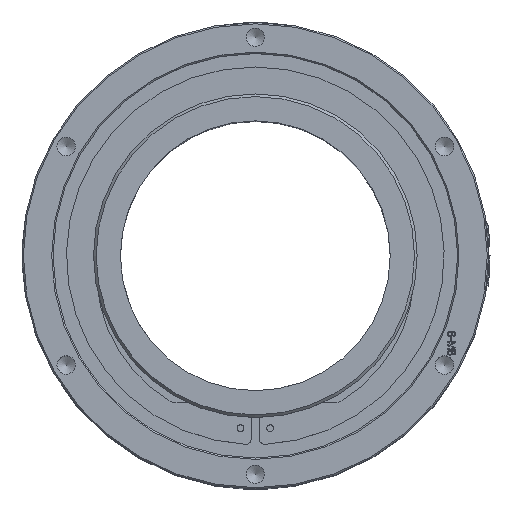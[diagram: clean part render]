
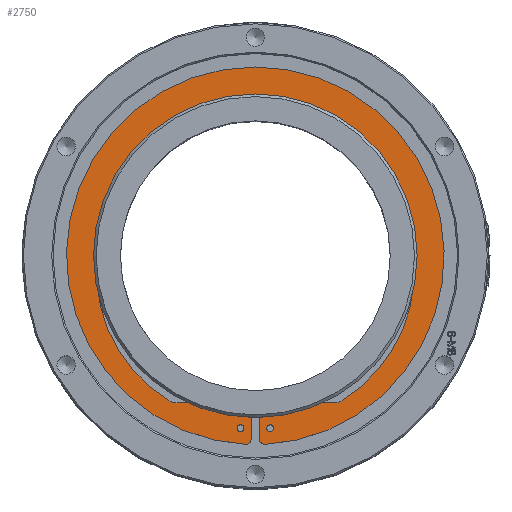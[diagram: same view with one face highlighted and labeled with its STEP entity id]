
A CAD part, top view. The second image highlights one B-rep face of the part: STEP entity #2750.
In plain terms, the highlighted planar face has unit normal (0, 0, 1).
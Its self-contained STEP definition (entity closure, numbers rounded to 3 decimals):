
#517=FACE_BOUND('',#7560,.T.);
#518=FACE_BOUND('',#7561,.T.);
#519=FACE_BOUND('',#7562,.T.);
#771=CIRCLE('',#25718,58.);
#772=CIRCLE('',#25719,58.);
#773=CIRCLE('',#25720,58.);
#778=CIRCLE('',#25741,1.25);
#779=CIRCLE('',#25742,1.25);
#780=CIRCLE('',#25743,2.);
#781=CIRCLE('',#25744,70.);
#782=CIRCLE('',#25745,2.);
#783=CIRCLE('',#25746,2.);
#784=CIRCLE('',#25747,6.);
#785=CIRCLE('',#25748,6.);
#786=CIRCLE('',#25749,56.5);
#787=CIRCLE('',#25750,56.5);
#788=CIRCLE('',#25751,6.);
#789=CIRCLE('',#25752,6.);
#790=CIRCLE('',#25753,2.);
#1243=PLANE('',#25754);
#1744=LINE('',#46372,#4847);
#1745=LINE('',#46381,#4848);
#1746=LINE('',#46386,#4849);
#1747=LINE('',#46395,#4850);
#2750=ADVANCED_FACE('',(#517,#518,#519),#1243,.T.);
#4847=VECTOR('',#28206,1.);
#4848=VECTOR('',#28213,1.);
#4849=VECTOR('',#28218,1.);
#4850=VECTOR('',#28227,1.);
#7560=EDGE_LOOP('',(#12423));
#7561=EDGE_LOOP('',(#12424));
#7562=EDGE_LOOP('',(#12425,#12426,#12427,#12428,#12429,#12430,#12431,#12432,
#12433,#12434,#12435,#12436,#12437,#12438,#12439,#12440,#12441,#12442));
#12423=ORIENTED_EDGE('',*,*,#20458,.T.);
#12424=ORIENTED_EDGE('',*,*,#20459,.T.);
#12425=ORIENTED_EDGE('',*,*,#20460,.T.);
#12426=ORIENTED_EDGE('',*,*,#20461,.T.);
#12427=ORIENTED_EDGE('',*,*,#20462,.F.);
#12428=ORIENTED_EDGE('',*,*,#20463,.T.);
#12429=ORIENTED_EDGE('',*,*,#20464,.T.);
#12430=ORIENTED_EDGE('',*,*,#20465,.T.);
#12431=ORIENTED_EDGE('',*,*,#20452,.F.);
#12432=ORIENTED_EDGE('',*,*,#20466,.T.);
#12433=ORIENTED_EDGE('',*,*,#20467,.F.);
#12434=ORIENTED_EDGE('',*,*,#20468,.T.);
#12435=ORIENTED_EDGE('',*,*,#20469,.T.);
#12436=ORIENTED_EDGE('',*,*,#20449,.F.);
#12437=ORIENTED_EDGE('',*,*,#20470,.T.);
#12438=ORIENTED_EDGE('',*,*,#20471,.T.);
#12439=ORIENTED_EDGE('',*,*,#20472,.F.);
#12440=ORIENTED_EDGE('',*,*,#20473,.T.);
#12441=ORIENTED_EDGE('',*,*,#20446,.F.);
#12442=ORIENTED_EDGE('',*,*,#20474,.T.);
#17197=VERTEX_POINT('',#46330);
#17198=VERTEX_POINT('',#46332);
#17199=VERTEX_POINT('',#46335);
#17200=VERTEX_POINT('',#46337);
#17201=VERTEX_POINT('',#46340);
#17202=VERTEX_POINT('',#46342);
#17207=VERTEX_POINT('',#46369);
#17208=VERTEX_POINT('',#46371);
#17209=VERTEX_POINT('',#46373);
#17210=VERTEX_POINT('',#46374);
#17211=VERTEX_POINT('',#46376);
#17212=VERTEX_POINT('',#46378);
#17213=VERTEX_POINT('',#46380);
#17214=VERTEX_POINT('',#46382);
#17215=VERTEX_POINT('',#46385);
#17216=VERTEX_POINT('',#46387);
#17217=VERTEX_POINT('',#46389);
#17218=VERTEX_POINT('',#46392);
#17219=VERTEX_POINT('',#46394);
#17220=VERTEX_POINT('',#46396);
#20446=EDGE_CURVE('',#17197,#17198,#771,.T.);
#20449=EDGE_CURVE('',#17199,#17200,#772,.T.);
#20452=EDGE_CURVE('',#17201,#17202,#773,.T.);
#20458=EDGE_CURVE('',#17207,#17207,#778,.T.);
#20459=EDGE_CURVE('',#17208,#17208,#779,.T.);
#20460=EDGE_CURVE('',#17209,#17210,#1744,.T.);
#20461=EDGE_CURVE('',#17210,#17211,#780,.T.);
#20462=EDGE_CURVE('',#17212,#17211,#781,.T.);
#20463=EDGE_CURVE('',#17212,#17213,#782,.T.);
#20464=EDGE_CURVE('',#17213,#17214,#1745,.T.);
#20465=EDGE_CURVE('',#17214,#17202,#783,.T.);
#20466=EDGE_CURVE('',#17201,#17215,#784,.T.);
#20467=EDGE_CURVE('',#17216,#17215,#1746,.T.);
#20468=EDGE_CURVE('',#17216,#17217,#785,.T.);
#20469=EDGE_CURVE('',#17217,#17200,#786,.T.);
#20470=EDGE_CURVE('',#17199,#17218,#787,.T.);
#20471=EDGE_CURVE('',#17218,#17219,#788,.T.);
#20472=EDGE_CURVE('',#17220,#17219,#1747,.T.);
#20473=EDGE_CURVE('',#17220,#17198,#789,.T.);
#20474=EDGE_CURVE('',#17197,#17209,#790,.T.);
#25718=AXIS2_PLACEMENT_3D('',#46331,#28151,#28152);
#25719=AXIS2_PLACEMENT_3D('',#46336,#28155,#28156);
#25720=AXIS2_PLACEMENT_3D('',#46341,#28159,#28160);
#25741=AXIS2_PLACEMENT_3D('',#46368,#28202,#28203);
#25742=AXIS2_PLACEMENT_3D('',#46370,#28204,#28205);
#25743=AXIS2_PLACEMENT_3D('',#46375,#28207,#28208);
#25744=AXIS2_PLACEMENT_3D('',#46377,#28209,#28210);
#25745=AXIS2_PLACEMENT_3D('',#46379,#28211,#28212);
#25746=AXIS2_PLACEMENT_3D('',#46383,#28214,#28215);
#25747=AXIS2_PLACEMENT_3D('',#46384,#28216,#28217);
#25748=AXIS2_PLACEMENT_3D('',#46388,#28219,#28220);
#25749=AXIS2_PLACEMENT_3D('',#46390,#28221,#28222);
#25750=AXIS2_PLACEMENT_3D('',#46391,#28223,#28224);
#25751=AXIS2_PLACEMENT_3D('',#46393,#28225,#28226);
#25752=AXIS2_PLACEMENT_3D('',#46397,#28228,#28229);
#25753=AXIS2_PLACEMENT_3D('',#46398,#28230,#28231);
#25754=AXIS2_PLACEMENT_3D('',#46399,#28232,#28233);
#28151=DIRECTION('',(0.,0.,1.));
#28152=DIRECTION('',(1.,0.,0.));
#28155=DIRECTION('',(0.,0.,1.));
#28156=DIRECTION('',(1.,0.,0.));
#28159=DIRECTION('',(0.,0.,1.));
#28160=DIRECTION('',(1.,0.,0.));
#28202=DIRECTION('',(0.,0.,-1.));
#28203=DIRECTION('',(1.,0.,0.));
#28204=DIRECTION('',(0.,0.,-1.));
#28205=DIRECTION('',(1.,0.,0.));
#28206=DIRECTION('',(0.,-1.,0.));
#28207=DIRECTION('',(0.,0.,1.));
#28208=DIRECTION('',(1.,0.,0.));
#28209=DIRECTION('',(0.,0.,-1.));
#28210=DIRECTION('',(1.,0.,0.));
#28211=DIRECTION('',(0.,0.,1.));
#28212=DIRECTION('',(1.,0.,0.));
#28213=DIRECTION('',(0.,1.,0.));
#28214=DIRECTION('',(0.,0.,1.));
#28215=DIRECTION('',(1.,0.,0.));
#28216=DIRECTION('',(0.,0.,1.));
#28217=DIRECTION('',(1.,0.,0.));
#28218=DIRECTION('',(1.,0.,0.));
#28219=DIRECTION('',(0.,0.,-1.));
#28220=DIRECTION('',(1.,0.,0.));
#28221=DIRECTION('',(0.,0.,-1.));
#28222=DIRECTION('',(1.,0.,0.));
#28223=DIRECTION('',(0.,0.,-1.));
#28224=DIRECTION('',(1.,0.,0.));
#28225=DIRECTION('',(0.,0.,-1.));
#28226=DIRECTION('',(1.,0.,0.));
#28227=DIRECTION('',(1.,0.,0.));
#28228=DIRECTION('',(0.,0.,1.));
#28229=DIRECTION('',(1.,0.,0.));
#28230=DIRECTION('',(0.,0.,1.));
#28231=DIRECTION('',(1.,0.,0.));
#28232=DIRECTION('',(0.,0.,1.));
#28233=DIRECTION('',(1.,0.,0.));
#46330=CARTESIAN_POINT('',(3.383,-57.901,-5.));
#46331=CARTESIAN_POINT('',(0.,0.,-5.));
#46332=CARTESIAN_POINT('',(18.969,-54.811,-5.));
#46335=CARTESIAN_POINT('',(57.548,7.226,-5.));
#46336=CARTESIAN_POINT('',(0.,0.,-5.));
#46337=CARTESIAN_POINT('',(-57.548,7.226,-5.));
#46340=CARTESIAN_POINT('',(-18.969,-54.811,-5.));
#46341=CARTESIAN_POINT('',(0.,0.,-5.));
#46342=CARTESIAN_POINT('',(-3.383,-57.901,-5.));
#46368=CARTESIAN_POINT('',(5.5,-63.904,-5.));
#46369=CARTESIAN_POINT('',(6.75,-63.904,-5.));
#46370=CARTESIAN_POINT('',(-5.5,-63.904,-5.));
#46371=CARTESIAN_POINT('',(-4.25,-63.904,-5.));
#46372=CARTESIAN_POINT('',(1.5,0.,-5.));
#46373=CARTESIAN_POINT('',(1.5,-59.898,-5.));
#46374=CARTESIAN_POINT('',(1.5,-67.91,-5.));
#46375=CARTESIAN_POINT('',(3.5,-67.91,-5.));
#46376=CARTESIAN_POINT('',(3.603,-69.907,-5.));
#46377=CARTESIAN_POINT('',(0.,0.,-5.));
#46378=CARTESIAN_POINT('',(-3.603,-69.907,-5.));
#46379=CARTESIAN_POINT('',(-3.5,-67.91,-5.));
#46380=CARTESIAN_POINT('',(-1.5,-67.91,-5.));
#46381=CARTESIAN_POINT('',(-1.5,0.,-5.));
#46382=CARTESIAN_POINT('',(-1.5,-59.898,-5.));
#46383=CARTESIAN_POINT('',(-3.5,-59.898,-5.));
#46384=CARTESIAN_POINT('',(-20.931,-60.481,-5.));
#46385=CARTESIAN_POINT('',(-20.931,-54.481,-5.));
#46386=CARTESIAN_POINT('',(-2.5,-54.481,-5.));
#46387=CARTESIAN_POINT('',(-29.013,-54.481,-5.));
#46388=CARTESIAN_POINT('',(-29.013,-48.481,-5.));
#46389=CARTESIAN_POINT('',(-32.163,-53.587,-5.));
#46390=CARTESIAN_POINT('',(-2.5,-5.5,-5.));
#46391=CARTESIAN_POINT('',(2.5,-5.5,-5.));
#46392=CARTESIAN_POINT('',(32.163,-53.587,-5.));
#46393=CARTESIAN_POINT('',(29.013,-48.481,-5.));
#46394=CARTESIAN_POINT('',(29.013,-54.481,-5.));
#46395=CARTESIAN_POINT('',(2.5,-54.481,-5.));
#46396=CARTESIAN_POINT('',(20.931,-54.481,-5.));
#46397=CARTESIAN_POINT('',(20.931,-60.481,-5.));
#46398=CARTESIAN_POINT('',(3.5,-59.898,-5.));
#46399=CARTESIAN_POINT('',(0.,0.,-5.));
